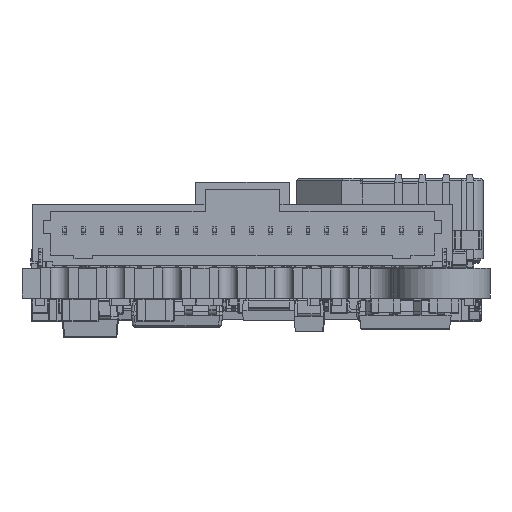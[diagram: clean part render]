
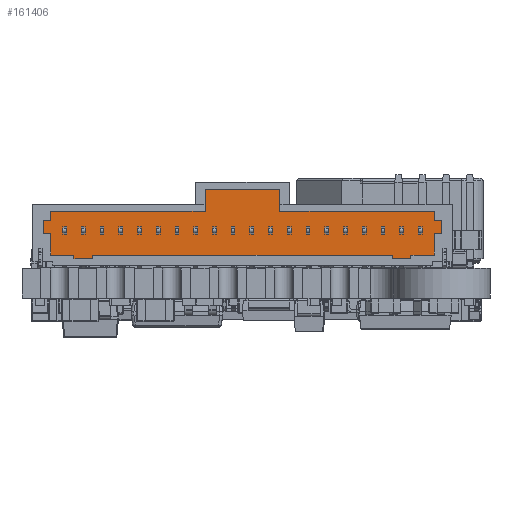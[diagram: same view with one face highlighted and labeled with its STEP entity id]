
A CAD part, front view. The second image highlights one B-rep face of the part: STEP entity #161406.
In plain terms, the highlighted planar face has unit normal (0, -1, 0).
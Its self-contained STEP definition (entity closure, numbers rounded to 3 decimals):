
#7923=FACE_OUTER_BOUND('',#17044,.T.);
#17044=EDGE_LOOP('',(#101705,#101706,#101707,#101708,#101709,#101710,#101711,
#101712,#101713,#101714,#101715,#101716,#101717,#101718,#101719,#101720,
#101721,#101722,#101723,#101724,#101725,#101726,#101727,#101728));
#26730=LINE('',#230727,#45122);
#26733=LINE('',#230733,#45125);
#26736=LINE('',#230739,#45128);
#26739=LINE('',#230745,#45131);
#26742=LINE('',#230751,#45134);
#26745=LINE('',#230757,#45137);
#26748=LINE('',#230763,#45140);
#26751=LINE('',#230769,#45143);
#26754=LINE('',#230775,#45146);
#26757=LINE('',#230781,#45149);
#26760=LINE('',#230787,#45152);
#26763=LINE('',#230793,#45155);
#26766=LINE('',#230799,#45158);
#26770=LINE('',#230806,#45162);
#26773=LINE('',#230812,#45165);
#26776=LINE('',#230818,#45168);
#26779=LINE('',#230824,#45171);
#26782=LINE('',#230830,#45174);
#26785=LINE('',#230836,#45177);
#26788=LINE('',#230842,#45180);
#26791=LINE('',#230848,#45183);
#26796=LINE('',#230858,#45188);
#26799=LINE('',#230864,#45191);
#26802=LINE('',#230870,#45194);
#45122=VECTOR('',#185426,10.);
#45125=VECTOR('',#185431,10.);
#45128=VECTOR('',#185436,10.);
#45131=VECTOR('',#185441,10.);
#45134=VECTOR('',#185446,10.);
#45137=VECTOR('',#185451,10.);
#45140=VECTOR('',#185456,10.);
#45143=VECTOR('',#185461,10.);
#45146=VECTOR('',#185466,10.);
#45149=VECTOR('',#185471,10.);
#45152=VECTOR('',#185476,10.);
#45155=VECTOR('',#185481,10.);
#45158=VECTOR('',#185486,10.);
#45162=VECTOR('',#185492,10.);
#45165=VECTOR('',#185497,10.);
#45168=VECTOR('',#185502,10.);
#45171=VECTOR('',#185507,10.);
#45174=VECTOR('',#185512,10.);
#45177=VECTOR('',#185517,10.);
#45180=VECTOR('',#185522,10.);
#45183=VECTOR('',#185527,10.);
#45188=VECTOR('',#185534,10.);
#45191=VECTOR('',#185539,10.);
#45194=VECTOR('',#185544,10.);
#63377=VERTEX_POINT('',#230724);
#63378=VERTEX_POINT('',#230726);
#63380=VERTEX_POINT('',#230732);
#63382=VERTEX_POINT('',#230738);
#63384=VERTEX_POINT('',#230744);
#63386=VERTEX_POINT('',#230750);
#63388=VERTEX_POINT('',#230756);
#63390=VERTEX_POINT('',#230762);
#63392=VERTEX_POINT('',#230768);
#63394=VERTEX_POINT('',#230774);
#63396=VERTEX_POINT('',#230780);
#63398=VERTEX_POINT('',#230786);
#63400=VERTEX_POINT('',#230792);
#63402=VERTEX_POINT('',#230798);
#63404=VERTEX_POINT('',#230804);
#63406=VERTEX_POINT('',#230810);
#63408=VERTEX_POINT('',#230816);
#63410=VERTEX_POINT('',#230822);
#63412=VERTEX_POINT('',#230828);
#63414=VERTEX_POINT('',#230834);
#63416=VERTEX_POINT('',#230840);
#63418=VERTEX_POINT('',#230846);
#63422=VERTEX_POINT('',#230856);
#63424=VERTEX_POINT('',#230862);
#77932=EDGE_CURVE('',#63377,#63378,#26730,.T.);
#77935=EDGE_CURVE('',#63378,#63380,#26733,.T.);
#77938=EDGE_CURVE('',#63380,#63382,#26736,.T.);
#77941=EDGE_CURVE('',#63382,#63384,#26739,.T.);
#77944=EDGE_CURVE('',#63384,#63386,#26742,.T.);
#77947=EDGE_CURVE('',#63386,#63388,#26745,.T.);
#77950=EDGE_CURVE('',#63388,#63390,#26748,.T.);
#77953=EDGE_CURVE('',#63390,#63392,#26751,.T.);
#77956=EDGE_CURVE('',#63392,#63394,#26754,.T.);
#77959=EDGE_CURVE('',#63394,#63396,#26757,.T.);
#77962=EDGE_CURVE('',#63396,#63398,#26760,.T.);
#77965=EDGE_CURVE('',#63398,#63400,#26763,.T.);
#77968=EDGE_CURVE('',#63400,#63402,#26766,.T.);
#77972=EDGE_CURVE('',#63404,#63377,#26770,.T.);
#77975=EDGE_CURVE('',#63406,#63404,#26773,.T.);
#77978=EDGE_CURVE('',#63408,#63406,#26776,.T.);
#77981=EDGE_CURVE('',#63410,#63408,#26779,.T.);
#77984=EDGE_CURVE('',#63412,#63410,#26782,.T.);
#77987=EDGE_CURVE('',#63414,#63412,#26785,.T.);
#77990=EDGE_CURVE('',#63416,#63414,#26788,.T.);
#77993=EDGE_CURVE('',#63418,#63416,#26791,.T.);
#77998=EDGE_CURVE('',#63422,#63418,#26796,.T.);
#78001=EDGE_CURVE('',#63424,#63422,#26799,.T.);
#78004=EDGE_CURVE('',#63402,#63424,#26802,.T.);
#101705=ORIENTED_EDGE('',*,*,#77959,.F.);
#101706=ORIENTED_EDGE('',*,*,#77956,.F.);
#101707=ORIENTED_EDGE('',*,*,#77953,.F.);
#101708=ORIENTED_EDGE('',*,*,#77950,.F.);
#101709=ORIENTED_EDGE('',*,*,#77947,.F.);
#101710=ORIENTED_EDGE('',*,*,#77944,.F.);
#101711=ORIENTED_EDGE('',*,*,#77941,.F.);
#101712=ORIENTED_EDGE('',*,*,#77938,.F.);
#101713=ORIENTED_EDGE('',*,*,#77935,.F.);
#101714=ORIENTED_EDGE('',*,*,#77932,.F.);
#101715=ORIENTED_EDGE('',*,*,#77972,.F.);
#101716=ORIENTED_EDGE('',*,*,#77975,.F.);
#101717=ORIENTED_EDGE('',*,*,#77978,.F.);
#101718=ORIENTED_EDGE('',*,*,#77981,.F.);
#101719=ORIENTED_EDGE('',*,*,#77984,.F.);
#101720=ORIENTED_EDGE('',*,*,#77987,.F.);
#101721=ORIENTED_EDGE('',*,*,#77990,.F.);
#101722=ORIENTED_EDGE('',*,*,#77993,.F.);
#101723=ORIENTED_EDGE('',*,*,#77998,.F.);
#101724=ORIENTED_EDGE('',*,*,#78001,.F.);
#101725=ORIENTED_EDGE('',*,*,#78004,.F.);
#101726=ORIENTED_EDGE('',*,*,#77968,.F.);
#101727=ORIENTED_EDGE('',*,*,#77965,.F.);
#101728=ORIENTED_EDGE('',*,*,#77962,.F.);
#145723=PLANE('',#170857);
#161406=ADVANCED_FACE('',(#7923),#145723,.F.);
#170857=AXIS2_PLACEMENT_3D('',#230872,#185546,#185547);
#185426=DIRECTION('',(-1.,0.,0.));
#185431=DIRECTION('',(0.,0.,1.));
#185436=DIRECTION('',(-1.,0.,0.));
#185441=DIRECTION('',(0.,0.,-1.));
#185446=DIRECTION('',(-1.,0.,0.));
#185451=DIRECTION('',(0.,0.,1.));
#185456=DIRECTION('',(-1.,0.,0.));
#185461=DIRECTION('',(0.,0.,1.));
#185466=DIRECTION('',(-1.,0.,0.));
#185471=DIRECTION('',(0.,0.,1.));
#185476=DIRECTION('',(1.,0.,0.));
#185481=DIRECTION('',(0.,0.,1.));
#185486=DIRECTION('',(1.,0.,0.));
#185492=DIRECTION('',(0.,0.,-1.));
#185497=DIRECTION('',(-1.,0.,0.));
#185502=DIRECTION('',(0.,0.,-1.));
#185507=DIRECTION('',(-1.,0.,0.));
#185512=DIRECTION('',(0.,0.,-1.));
#185517=DIRECTION('',(1.,0.,0.));
#185522=DIRECTION('',(0.,0.,-1.));
#185527=DIRECTION('',(1.,0.,0.));
#185534=DIRECTION('',(0.,0.,-1.));
#185539=DIRECTION('',(1.,0.,0.));
#185544=DIRECTION('',(0.,0.,1.));
#185546=DIRECTION('center_axis',(0.,1.,0.));
#185547=DIRECTION('ref_axis',(0.,0.,
1.));
#230724=CARTESIAN_POINT('',(8.278,-20.157,0.5));
#230726=CARTESIAN_POINT('',(7.278,-20.157,0.5));
#230727=CARTESIAN_POINT('',(7.278,-20.157,0.5));
#230732=CARTESIAN_POINT('',(7.278,-20.157,0.7));
#230733=CARTESIAN_POINT('',(7.278,-20.157,0.7));
#230738=CARTESIAN_POINT('',(-8.722,-20.157,0.7));
#230739=CARTESIAN_POINT('',(-8.722,-20.157,0.7));
#230744=CARTESIAN_POINT('',(-8.722,-20.157,0.5));
#230745=CARTESIAN_POINT('',(-8.722,-20.157,0.5));
#230750=CARTESIAN_POINT('',(-9.722,-20.157,0.5));
#230751=CARTESIAN_POINT('',(-9.722,-20.157,0.5));
#230756=CARTESIAN_POINT('',(-9.722,-20.157,0.7));
#230757=CARTESIAN_POINT('',(-9.722,-20.157,0.7));
#230762=CARTESIAN_POINT('',(-10.972,-20.157,0.7));
#230763=CARTESIAN_POINT('',(-10.972,-20.157,0.7));
#230768=CARTESIAN_POINT('',(-10.972,-20.157,1.85));
#230769=CARTESIAN_POINT('',(-10.972,-20.157,1.85));
#230774=CARTESIAN_POINT('',(-11.372,-20.157,1.85));
#230775=CARTESIAN_POINT('',(-11.372,-20.157,1.85));
#230780=CARTESIAN_POINT('',(-11.372,-20.157,2.55));
#230781=CARTESIAN_POINT('',(-11.372,-20.157,2.55));
#230786=CARTESIAN_POINT('',(-10.972,-20.157,2.55));
#230787=CARTESIAN_POINT('',(-10.972,-20.157,2.55));
#230792=CARTESIAN_POINT('',(-10.972,-20.157,3.05));
#230793=CARTESIAN_POINT('',(-10.972,-20.157,3.05));
#230798=CARTESIAN_POINT('',(-2.722,-20.157,3.05));
#230799=CARTESIAN_POINT('',(-2.722,-20.157,3.05));
#230804=CARTESIAN_POINT('',(8.278,-20.157,0.7));
#230806=CARTESIAN_POINT('',(8.278,-20.157,0.5));
#230810=CARTESIAN_POINT('',(9.528,-20.157,0.7));
#230812=CARTESIAN_POINT('',(8.278,-20.157,0.7));
#230816=CARTESIAN_POINT('',(9.528,-20.157,1.85));
#230818=CARTESIAN_POINT('',(9.528,-20.157,0.7));
#230822=CARTESIAN_POINT('',(9.928,-20.157,1.85));
#230824=CARTESIAN_POINT('',(9.528,-20.157,1.85));
#230828=CARTESIAN_POINT('',(9.928,-20.157,2.55));
#230830=CARTESIAN_POINT('',(9.928,-20.157,1.85));
#230834=CARTESIAN_POINT('',(9.528,-20.157,2.55));
#230836=CARTESIAN_POINT('',(9.928,-20.157,2.55));
#230840=CARTESIAN_POINT('',(9.528,-20.157,3.05));
#230842=CARTESIAN_POINT('',(9.528,-20.157,2.55));
#230846=CARTESIAN_POINT('',(1.278,-20.157,3.05));
#230848=CARTESIAN_POINT('',(9.528,-20.157,3.05));
#230856=CARTESIAN_POINT('',(1.278,-20.157,4.2));
#230858=CARTESIAN_POINT('',(1.278,-20.157,3.05));
#230862=CARTESIAN_POINT('',(-2.722,-20.157,4.2));
#230864=CARTESIAN_POINT('',(1.278,-20.157,4.2));
#230870=CARTESIAN_POINT('',(-2.722,-20.157,4.2));
#230872=CARTESIAN_POINT('Origin',(-0.722,-20.157,
2.028));
